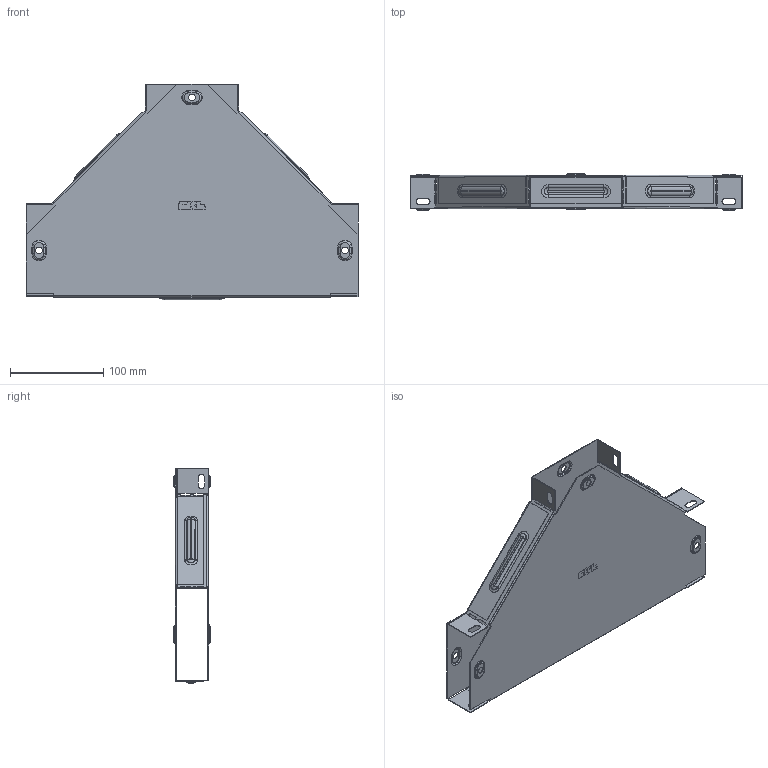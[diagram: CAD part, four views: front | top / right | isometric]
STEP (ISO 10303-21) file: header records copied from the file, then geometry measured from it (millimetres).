
FILE_DESCRIPTION (( 'STEP AP214' ), '1' );
FILE_NAME ('t3510008_捘.STEP', '2019-06-10T08:06:58', ( '砐錪賧瘔蠈錪 Windows' ), ( '' ), 'SwSTEP 2.0', 'SolidWorks 2018', '' );
FILE_SCHEMA (( 'AUTOMOTIVE_DESIGN' ));
Length unit declared in the file: millimetre
Products named in the file (1): t3510008_捘
Bounding box: 356.4 x 38.8 x 231 mm (x, y, z)
Volume: 124213.4 mm3; surface area: 313309.5 mm2
Topology: 2 solids, 2 shells, 594 faces, 1602 edges, 1032 vertices
Faces by surface type: plane 310, cylinder 170, torus 96, bspline 18
Entity records: 19659 total; most frequent: CARTESIAN_POINT 4309, ORIENTED_EDGE 3204, DIRECTION 3204, EDGE_CURVE 1602, LINE 1082, VECTOR 1082, AXIS2_PLACEMENT_3D 1061, VERTEX_POINT 1032
